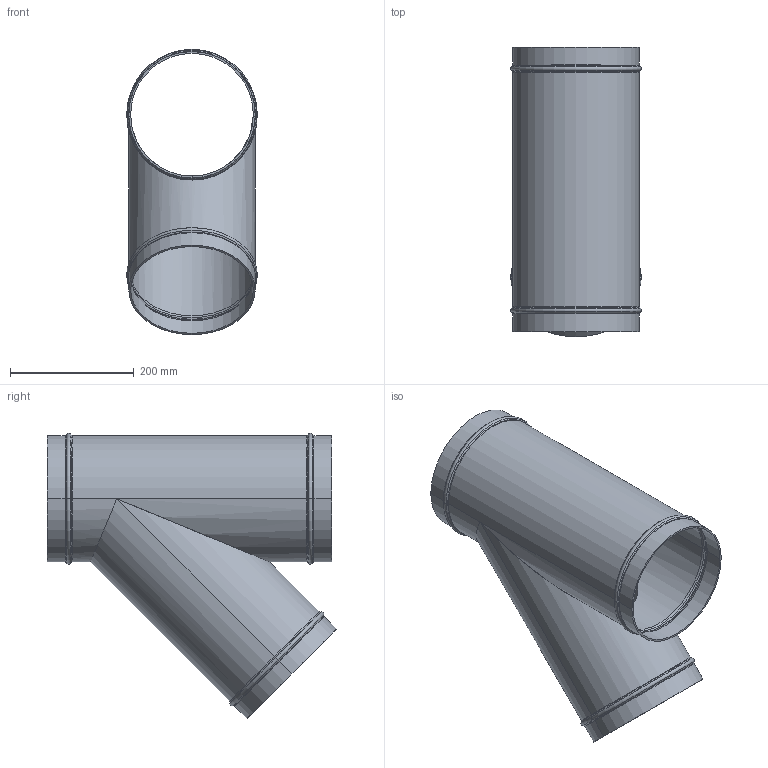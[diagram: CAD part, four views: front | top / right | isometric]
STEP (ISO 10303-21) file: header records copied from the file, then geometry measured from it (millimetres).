
FILE_DESCRIPTION(/* description */ (''),/* implementation_level */ '2;1');
FILE_NAME(/* name */ 'A009_stp.stp',/* time_stamp */ '2025-06-20T11:39:14+08:00',/* author */ (''),/* organization */ (''),/* preprocessor_version */ 'ST-DEVELOPER v14',/* originating_system */ 'SIEMENS PLM Software NX 8.0',/* authorisation */ '');
FILE_SCHEMA (('AP203_CONFIGURATION_CONTROLLED_3D_DESIGN_OF_MECHANICAL_PARTS_AND_ASSEMBLIES_MIM_LF { 1 0 10303 403 2 1 2}'));
Length unit declared in the file: millimetre
Products named in the file (1): Admi0BECFFFE4xuc
Bounding box: 211 x 466.94 x 460.5 mm (x, y, z)
Volume: 1299623.5 mm3; surface area: 879064.8 mm2
Topology: 2 solids, 2 shells, 89 faces, 192 edges, 104 vertices
Faces by surface type: torus 36, cone 24, cylinder 22, plane 7
Entity records: 2512 total; most frequent: DIRECTION 512, CARTESIAN_POINT 386, ORIENTED_EDGE 384, AXIS2_PLACEMENT_3D 230, EDGE_CURVE 192, CIRCLE 132, VERTEX_POINT 104, EDGE_LOOP 92
